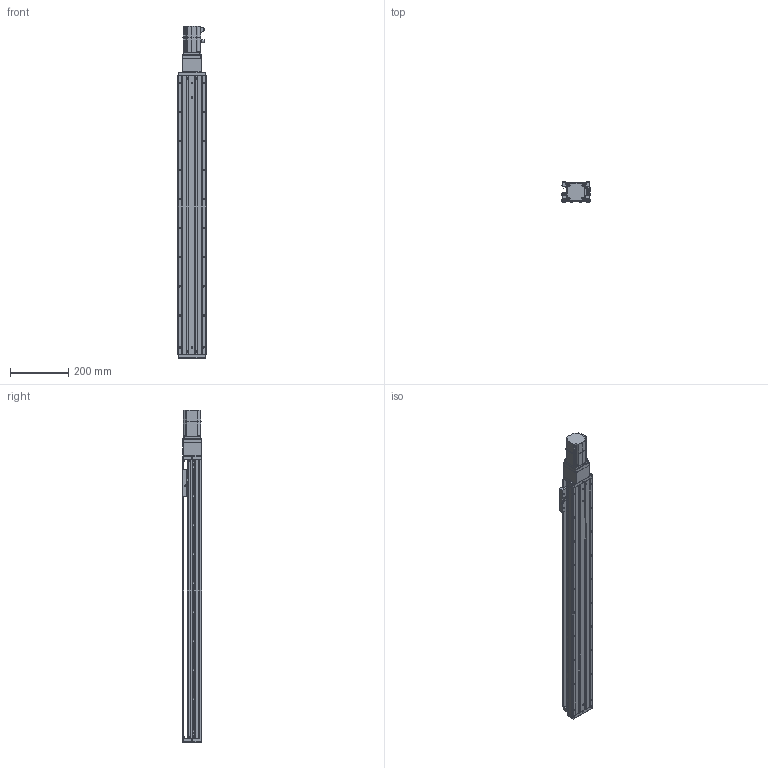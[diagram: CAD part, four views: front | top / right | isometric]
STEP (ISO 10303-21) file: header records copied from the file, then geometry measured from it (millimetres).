
FILE_DESCRIPTION (( 'STEP AP203' ), '1' );
FILE_NAME ('KTHA100-800-BC-M20-C4L.step', '2022-04-26T01:45:44', ( '微软用户' ), ( '微软中国' ), 'SwSTEP 2.0', 'SolidWorks 2020', '' );
FILE_SCHEMA (( 'CONFIG_CONTROL_DESIGN' ));
Length unit declared in the file: millimetre
Products named in the file (18): KTHA100-800-BC-M20-C4L; GB¨uT 70.2-M3¡Á5_M3¡Á6; CTHA60-016; EE_SX911P_R; GBT 70.3-M3℅6; CTHA60-017; _X2_4E0983F1_X0_200W_1; KTHA100-001_960; CTHA60-021; CTHA86-013; KTHA100-002; GBT77-2000 M3×3; CTHA86-027; KTHA100-004; GBT 70.1-M3℅6; CTHA86-006-1_CTHA86-006-2; KTHA100-005; GBT70.1 M5℅16
Assembly tree (56 placements, depth 2):
  KTHA100-800-BC-M20-C4L
    KTHA100-001_960
    KTHA100-002
    KTHA100-004
    KTHA100-005
    GB¨uT 70.2-M3¡Á5_M3¡Á6  x6
    EE_SX911P_R  x3
    CTHA60-017  x3
    CTHA60-021  x2
    GBT77-2000 M3×3  x6
    GBT 70.1-M3℅6  x6
    GBT70.1 M5℅16  x14
    CTHA60-016  x2
    GBT 70.3-M3℅6  x6
    _X2_4E0983F1_X0_200W_1
    CTHA86-013
    CTHA86-027
    CTHA86-006-1_CTHA86-006-2
Bounding box: 98.82 x 68 x 1142.5 mm (x, y, z)
Volume: 4238269.1 mm3; surface area: 702290.1 mm2
Topology: 59 solids, 59 shells, 2447 faces, 5856 edges, 3616 vertices
Faces by surface type: plane 1251, cylinder 673, cone 334, torus 104, bspline 69, sphere 16
Entity records: 42890 total; most frequent: CARTESIAN_POINT 8199, DIRECTION 6769, ORIENTED_EDGE 6480, EDGE_CURVE 3240, AXIS2_PLACEMENT_3D 2358, LINE 2053, VECTOR 2053, VERTEX_POINT 2034
